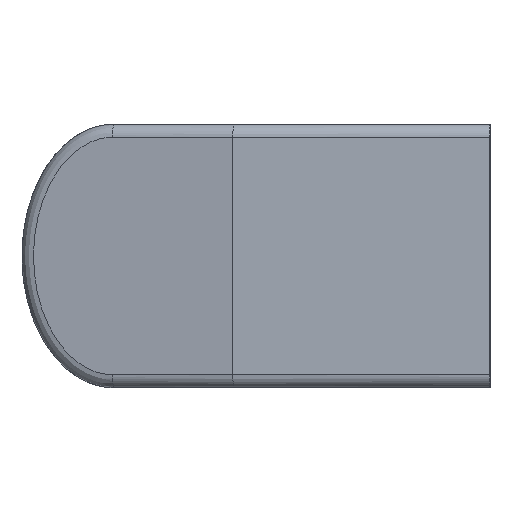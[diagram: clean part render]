
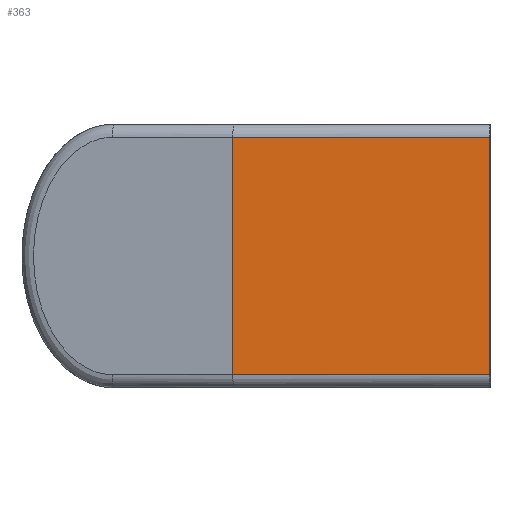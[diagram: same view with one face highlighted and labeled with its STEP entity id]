
A CAD part, left-side view. The second image highlights one B-rep face of the part: STEP entity #363.
In plain terms, the highlighted planar face has unit normal (-1, 0, 0).
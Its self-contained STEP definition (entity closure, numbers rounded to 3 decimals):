
#26 = ORIENTED_EDGE ( 'NONE', *, *, #909, .F. ) ;
#39 = LINE ( 'NONE', #1969, #104 ) ;
#62 = VECTOR ( 'NONE', #868, 1000. ) ;
#104 = VECTOR ( 'NONE', #763, 1000. ) ;
#107 = DIRECTION ( 'NONE',  ( 0., 0., 1. ) ) ;
#182 = VERTEX_POINT ( 'NONE', #1651 ) ;
#224 = CARTESIAN_POINT ( 'NONE',  ( -411., 39., -21. ) ) ;
#363 = ADVANCED_FACE ( 'NONE', ( #964 ), #950, .F. ) ;
#368 = EDGE_LOOP ( 'NONE', ( #421, #26, #1302, #668 ) ) ;
#412 = DIRECTION ( 'NONE',  ( 0., 1., 0. ) ) ;
#415 = EDGE_CURVE ( 'NONE', #182, #1835, #542, .T. ) ;
#421 = ORIENTED_EDGE ( 'NONE', *, *, #415, .T. ) ;
#538 = VERTEX_POINT ( 'NONE', #1180 ) ;
#542 = LINE ( 'NONE', #1925, #62 ) ;
#604 = CARTESIAN_POINT ( 'NONE',  ( -411., 0., 18. ) ) ;
#626 = VECTOR ( 'NONE', #1603, 1000. ) ;
#668 = ORIENTED_EDGE ( 'NONE', *, *, #1808, .F. ) ;
#763 = DIRECTION ( 'NONE',  ( 0., -1., 0. ) ) ;
#833 = CARTESIAN_POINT ( 'NONE',  ( -411., 39., -18. ) ) ;
#868 = DIRECTION ( 'NONE',  ( 0., 0., 1. ) ) ;
#900 = EDGE_CURVE ( 'NONE', #2042, #538, #1308, .T. ) ;
#909 = EDGE_CURVE ( 'NONE', #538, #1835, #39, .T. ) ;
#950 = PLANE ( 'NONE',  #1604 ) ;
#964 = FACE_OUTER_BOUND ( 'NONE', #368, .T. ) ;
#971 = LINE ( 'NONE', #1117, #1322 ) ;
#987 = CARTESIAN_POINT ( 'NONE',  ( -411., 39., -21. ) ) ;
#1117 = CARTESIAN_POINT ( 'NONE',  ( -411., 39., -18. ) ) ;
#1180 = CARTESIAN_POINT ( 'NONE',  ( -411., 39., 18. ) ) ;
#1302 = ORIENTED_EDGE ( 'NONE', *, *, #900, .F. ) ;
#1308 = LINE ( 'NONE', #224, #626 ) ;
#1322 = VECTOR ( 'NONE', #412, 1000. ) ;
#1603 = DIRECTION ( 'NONE',  ( 0., 0., 1. ) ) ;
#1604 = AXIS2_PLACEMENT_3D ( 'NONE', #987, #1687, #107 ) ;
#1651 = CARTESIAN_POINT ( 'NONE',  ( -411., 0., -18. ) ) ;
#1687 = DIRECTION ( 'NONE',  ( 1., 0., 0. ) ) ;
#1808 = EDGE_CURVE ( 'NONE', #182, #2042, #971, .T. ) ;
#1835 = VERTEX_POINT ( 'NONE', #604 ) ;
#1925 = CARTESIAN_POINT ( 'NONE',  ( -411., 0., 20. ) ) ;
#1969 = CARTESIAN_POINT ( 'NONE',  ( -411., 39., 18. ) ) ;
#2042 = VERTEX_POINT ( 'NONE', #833 ) ;
